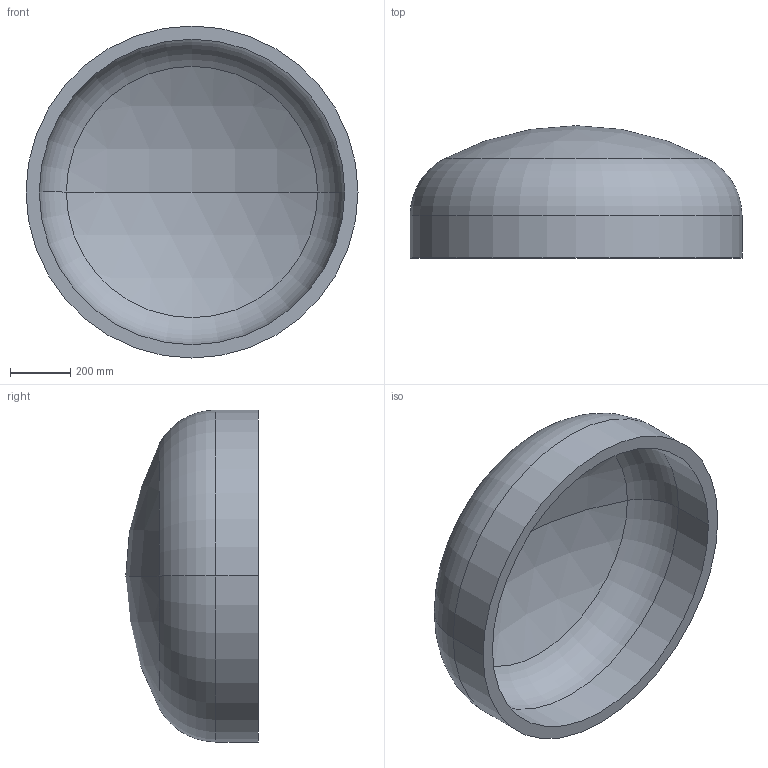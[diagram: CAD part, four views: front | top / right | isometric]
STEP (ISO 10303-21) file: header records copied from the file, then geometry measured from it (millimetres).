
FILE_DESCRIPTION (( 'STEP AP203' ), '1' );
FILE_NAME ('DIN 28013 Korbbogenform_-_Boden DIN 28013 - 1100 x 140 - I - s=44.step', '2016-07-01T09:08:30', ( '' ), ( '' ), 'SwSTEP 2.0', 'SolidWorks 2013', '' );
FILE_SCHEMA (( 'CONFIG_CONTROL_DESIGN' ));
Length unit declared in the file: millimetre
Products named in the file (1): DIN 28013 Korbbogenform_-_Boden DIN 28013 - 1100 x 140 - I - s=44
Bounding box: 1100 x 438.54 x 1100 mm (x, y, z)
Volume: 75463058.1 mm3; surface area: 3580163.9 mm2
Topology: 1 solids, 1 shells, 13 faces, 24 edges, 14 vertices
Faces by surface type: torus 4, cylinder 4, sphere 4, plane 1
Entity records: 407 total; most frequent: DIRECTION 72, CARTESIAN_POINT 52, ORIENTED_EDGE 48, AXIS2_PLACEMENT_3D 34, EDGE_CURVE 24, CIRCLE 20, VERTEX_POINT 14, EDGE_LOOP 14
